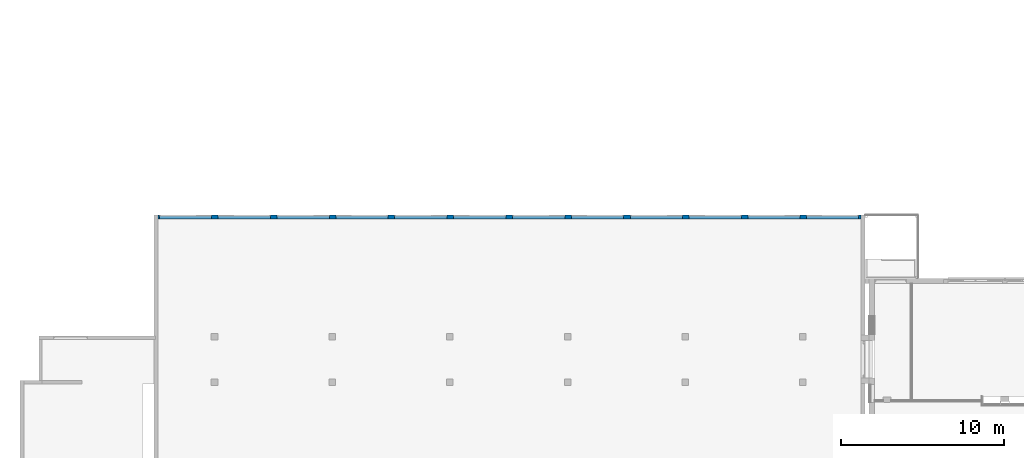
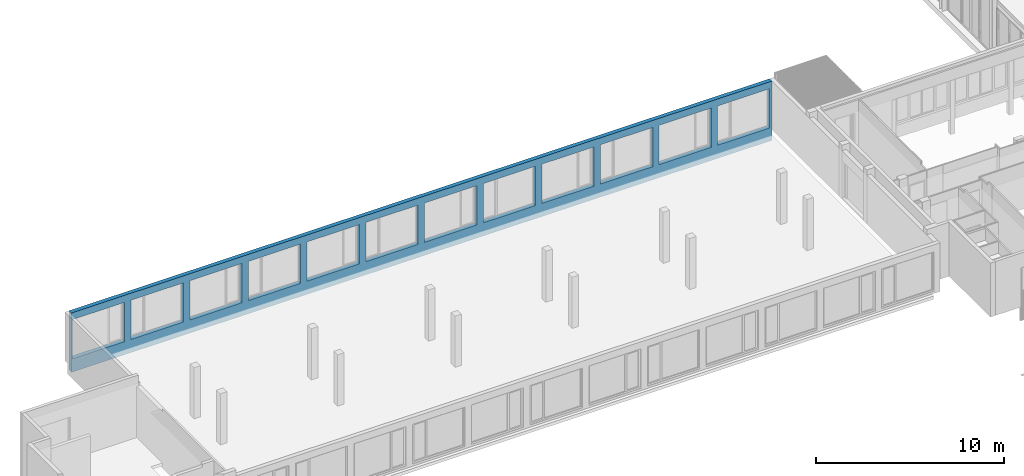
# One storey, part 27 of 99: 1 wall, 12 openings.
"""IFC2X3 building model written with IfcOpenShell, lengths in millimetres."""

from ifc_helpers import new_model, entity, si_unit, converted_unit, derived_unit, money_unit, direction, frame, origin_with_axes, place, context, subcontext, project, spatial, faceted_brep, material, type_object, element, save


model = new_model("IFC2X3")

# Units and contexts
model_context = context("Model", 3, precision=0.01, world=origin_with_axes(), true_north=direction((0.0, 1.0)))
body_context = subcontext(model_context, "Body", "Model", "MODEL_VIEW")
ifc_project = project(units=[si_unit("LENGTHUNIT", "METRE", prefix="MILLI"), si_unit("AREAUNIT", "SQUARE_METRE"), si_unit("VOLUMEUNIT", "CUBIC_METRE"), converted_unit("PLANEANGLEUNIT", "DEGREE", entity("IfcPlaneAngleMeasure", 0.0174532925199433), si_unit("PLANEANGLEUNIT", "RADIAN"), dimensions=[0, 0, 0, 0, 0, 0, 0]), money_unit("EUR"), converted_unit("TIMEUNIT", "Year", entity("IfcTimeMeasure", 31557600.0), si_unit("TIMEUNIT", "SECOND"), dimensions=[0, 0, 1, 0, 0, 0, 0]), si_unit("MASSUNIT", "GRAM", prefix="KILO"), si_unit("THERMODYNAMICTEMPERATUREUNIT", "DEGREE_CELSIUS"), si_unit("LUMINOUSINTENSITYUNIT", "LUMEN"), si_unit("ENERGYUNIT", "JOULE", prefix="MEGA"), derived_unit("THERMALCONDUCTANCEUNIT", [(si_unit("POWERUNIT", "WATT"), 1), (si_unit("LENGTHUNIT", "METRE"), -1), (si_unit("THERMODYNAMICTEMPERATUREUNIT", "KELVIN"), -1)]), derived_unit("SPECIFICHEATCAPACITYUNIT", [(si_unit("ENERGYUNIT", "JOULE"), 1), (si_unit("MASSUNIT", "GRAM", prefix="KILO"), -1), (si_unit("THERMODYNAMICTEMPERATUREUNIT", "KELVIN"), -1)]), derived_unit("MASSDENSITYUNIT", [(si_unit("MASSUNIT", "GRAM", prefix="KILO"), 1), (si_unit("VOLUMEUNIT", "CUBIC_METRE"), -1)])], contexts=[model_context])

# Site, building, storey
site_placement = place(None, origin_with_axes())
site = spatial("IfcSite", under=ifc_project, at=site_placement, Name="Site", CompositionType="ELEMENT")
building_placement = place(site_placement, origin_with_axes())
building = spatial("IfcBuilding", under=site, at=building_placement, Name="Naam gebouw", CompositionType="ELEMENT")
storey_placement = place(building_placement, frame((0.0, 0.0, 7650.0), z_axis=(0.0, 0.0, 1.0), x_axis=(1.0, 0.0, 0.0)))
storey = spatial("IfcBuildingStorey", under=building, at=storey_placement, Name="2e verdieping N", CompositionType="ELEMENT", Elevation=7650.0)

# Wall, openings
ifc_material = material(Name="ALG - CONSTRUCTIEF")
wall_type = type_object("IfcWallType", Name="ALG - CONSTRUCTIEF 250", PredefinedType="NOTDEFINED")
wall_placement = place(storey_placement, frame((-1600.000000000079, 23965.57502437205, -790.0), z_axis=(0.0, 0.0, 1.0), x_axis=(-1.0, 0.0, 0.0)))
wall = element("IfcWall", 1, at=wall_placement, inside=storey, type_object=wall_type, material=ifc_material, Name="_Wand-x", context=body_context, shape_type="Brep", body=[
    faceted_brep([(-2.778510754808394e-08, 0.0, 0.0), (0.0, 0.0, 3850.0), (43000.00000015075, 4.082068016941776e-09, 3850.0), (43000.00000015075, 4.082068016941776e-09, 690.0000000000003), (43000.00000015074, 4.082068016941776e-09, 0.0), (3717.759267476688, 3.517186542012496e-10, 850.0000000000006), (6917.759267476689, 6.572520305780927e-10, 850.0000000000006), (6917.759267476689, 6.572520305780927e-10, 3400.000000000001), (3717.759267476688, 3.517186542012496e-10, 3400.000000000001), (7314.279644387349, 6.927791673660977e-10, 3400.000000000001), (7314.279644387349, 6.927791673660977e-10, 850.0000000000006), (10514.27964438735, 9.983125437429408e-10, 850.0000000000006), (10514.27964438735, 9.983125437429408e-10, 3400.000000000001), (14114.27964438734, 1.339373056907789e-09, 3400.000000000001), (10914.27964438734, 1.037392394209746e-09, 3400.000000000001), (10914.27964438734, 1.037392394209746e-09, 850.0000000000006), (14114.27964438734, 1.339373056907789e-09, 850.0000000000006), (17714.27964438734, 1.680433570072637e-09, 850.0000000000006), (17714.27964438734, 1.680433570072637e-09, 3400.000000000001), (14514.27964438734, 1.374900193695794e-09, 3400.000000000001), (14514.27964438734, 1.374900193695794e-09, 850.0000000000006), (18114.27964438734, 1.715960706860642e-09, 850.0000000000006), (21314.27964438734, 2.021494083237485e-09, 850.0000000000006), (21314.27964438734, 2.021494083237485e-09, 3400.000000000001), (18114.27964438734, 1.715960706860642e-09, 3400.000000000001), (21714.27964438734, 2.064126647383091e-09, 3400.000000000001), (21714.27964438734, 2.064126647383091e-09, 850.0000000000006), (24914.27964438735, 2.366107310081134e-09, 850.0000000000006), (24914.27964438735, 2.366107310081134e-09, 3400.000000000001), (28529.34748623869, 2.707167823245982e-09, 3400.000000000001), (25329.34748623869, 2.401634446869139e-09, 3400.000000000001), (25329.34748623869, 2.401634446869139e-09, 850.0000000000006), (28529.34748623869, 2.707167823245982e-09, 850.0000000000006), (32129.3474862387, 3.04822833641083e-09, 850.0000000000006), (32129.3474862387, 3.05178105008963e-09, 3400.000000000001), (28929.3474862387, 2.746247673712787e-09, 3400.000000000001), (28929.3474862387, 2.746247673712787e-09, 850.0000000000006), (32529.34740271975, 3.087308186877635e-09, 850.0000000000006), (35729.34740271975, 3.389288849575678e-09, 850.0000000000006), (35729.34740271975, 3.389288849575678e-09, 3400.000000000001), (32529.34740271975, 3.087308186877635e-09, 3400.000000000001), (137.7592674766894, 0.0, 3400.000000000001), (137.7592674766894, 0.0, 850.0000000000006), (3337.759267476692, 3.161915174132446e-10, 850.0000000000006), (3337.759267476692, 3.161915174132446e-10, 3400.000000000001), (39329.34740271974, 3.733902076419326e-09, 3400.000000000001), (36129.34740271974, 3.428368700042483e-09, 3400.000000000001), (36129.34740271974, 3.428368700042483e-09, 850.0000000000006), (39329.34740271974, 3.733902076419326e-09, 850.0000000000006), (42929.3473192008, 4.074962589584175e-09, 850.0000000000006), (42929.3473192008, 4.074962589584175e-09, 3400.000000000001), (39729.34731920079, 3.769429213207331e-09, 3400.000000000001), (39729.34731920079, 3.769429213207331e-09, 850.0000000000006), (-2.776134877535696e-08, -250.0, 0.0), (0.0, -250.0, 690.0000000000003), (0.0, -250.0, 3850.0), (43000.00000015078, -249.9999999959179, 3850.0), (43000.00000015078, -249.9999999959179, 690.0000000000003), (43000.00000015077, -249.9999999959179, 0.0), (3717.759267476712, -249.9999999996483, 850.0000000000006), (6917.759267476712, -249.9999999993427, 850.0000000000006), (6917.759267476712, -249.9999999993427, 3400.000000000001), (3717.759267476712, -249.9999999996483, 3400.000000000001), (7314.279644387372, -249.9999999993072, 3400.000000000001), (7314.279644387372, -249.9999999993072, 850.0000000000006), (10514.27964438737, -249.9999999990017, 850.0000000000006), (10514.27964438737, -249.9999999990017, 3400.000000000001), (10914.27964438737, -249.9999999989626, 3400.000000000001), (14114.27964438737, -249.9999999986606, 3400.000000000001), (10914.27964438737, -249.9999999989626, 850.0000000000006), (14114.27964438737, -249.9999999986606, 850.0000000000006), (17714.27964438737, -249.999999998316, 850.0000000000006), (17714.27964438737, -249.999999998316, 3400.000000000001), (14514.27964438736, -249.9999999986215, 3400.000000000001), (14514.27964438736, -249.9999999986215, 850.0000000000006), (18114.27964438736, -249.999999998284, 850.0000000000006), (21314.27964438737, -249.9999999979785, 850.0000000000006), (21314.27964438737, -249.9999999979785, 3400.000000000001), (18114.27964438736, -249.999999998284, 3400.000000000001), (21714.27964438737, -249.9999999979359, 3400.000000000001), (21714.27964438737, -249.9999999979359, 850.0000000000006), (24914.27964438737, -249.9999999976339, 850.0000000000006), (24914.27964438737, -249.9999999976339, 3400.000000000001), (25329.34748623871, -249.9999999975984, 3400.000000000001), (28529.34748623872, -249.9999999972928, 3400.000000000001), (25329.34748623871, -249.9999999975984, 850.0000000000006), (28529.34748623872, -249.9999999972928, 850.0000000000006), (32129.34748623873, -249.9999999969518, 850.0000000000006), (32129.34748623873, -249.9999999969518, 3400.000000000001), (28929.34748623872, -249.9999999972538, 3400.000000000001), (28929.34748623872, -249.9999999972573, 850.0000000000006), (32529.34740271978, -249.9999999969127, 850.0000000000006), (35729.34740271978, -249.9999999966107, 850.0000000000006), (35729.34740271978, -249.9999999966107, 3400.000000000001), (32529.34740271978, -249.9999999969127, 3400.000000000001), (137.7592674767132, -249.9999999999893, 3400.000000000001), (137.7592674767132, -249.9999999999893, 850.0000000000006), (3337.759267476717, -249.9999999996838, 850.0000000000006), (3337.759267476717, -249.9999999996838, 3400.000000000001), (36129.34740271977, -249.9999999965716, 3400.000000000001), (39329.34740271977, -249.9999999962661, 3400.000000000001), (36129.34740271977, -249.9999999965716, 850.0000000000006), (39329.34740271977, -249.9999999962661, 850.0000000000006), (42929.34731920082, -249.999999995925, 850.0000000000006), (42929.34731920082, -249.999999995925, 3400.000000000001), (39729.34731920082, -249.9999999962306, 3400.000000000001), (39729.34731920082, -249.9999999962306, 850.0000000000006)], [[[0, 1, 2, 3, 4], [5, 6, 7, 8], [9, 10, 11, 12], [13, 14, 15, 16], [17, 18, 19, 20], [21, 22, 23, 24], [25, 26, 27, 28], [29, 30, 31, 32], [33, 34, 35, 36], [37, 38, 39, 40], [41, 42, 43, 44], [45, 46, 47, 48], [49, 50, 51, 52]], [[0, 53, 54, 55, 1]], [[55, 56, 2, 1]], [[4, 3, 2, 56, 57, 58]], [[58, 53, 0, 4]], [[5, 59, 60, 6]], [[6, 60, 61, 7]], [[7, 61, 62, 8]], [[8, 62, 59, 5]], [[10, 9, 63, 64]], [[11, 10, 64, 65]], [[12, 11, 65, 66]], [[9, 12, 66, 63]], [[67, 14, 13, 68]], [[69, 15, 14, 67]], [[70, 16, 15, 69]], [[68, 13, 16, 70]], [[71, 72, 18, 17]], [[72, 73, 19, 18]], [[73, 74, 20, 19]], [[74, 71, 17, 20]], [[21, 75, 76, 22]], [[22, 76, 77, 23]], [[23, 77, 78, 24]], [[24, 78, 75, 21]], [[26, 25, 79, 80]], [[27, 26, 80, 81]], [[28, 27, 81, 82]], [[25, 28, 82, 79]], [[83, 30, 29, 84]], [[85, 31, 30, 83]], [[86, 32, 31, 85]], [[84, 29, 32, 86]], [[87, 88, 34, 33]], [[88, 89, 35, 34]], [[89, 90, 36, 35]], [[90, 87, 33, 36]], [[37, 91, 92, 38]], [[38, 92, 93, 39]], [[39, 93, 94, 40]], [[40, 94, 91, 37]], [[42, 41, 95, 96]], [[43, 42, 96, 97]], [[44, 43, 97, 98]], [[41, 44, 98, 95]], [[99, 46, 45, 100]], [[101, 47, 46, 99]], [[102, 48, 47, 101]], [[100, 45, 48, 102]], [[103, 104, 50, 49]], [[104, 105, 51, 50]], [[105, 106, 52, 51]], [[106, 103, 49, 52]], [[58, 57, 56, 55, 54, 53], [61, 60, 59, 62], [63, 66, 65, 64], [69, 67, 68, 70], [71, 74, 73, 72], [77, 76, 75, 78], [79, 82, 81, 80], [85, 83, 84, 86], [87, 90, 89, 88], [93, 92, 91, 94], [95, 98, 97, 96], [101, 99, 100, 102], [103, 106, 105, 104]]]),
])
opening_1_placement = place(wall_placement, frame((5317.759267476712, -5.044853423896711e-10, 850.0000000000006), z_axis=(0.0, 0.0, 1.0), x_axis=(1.0, 0.0, 0.0)))
element("IfcOpeningElement", 2, at=opening_1_placement, cuts=wall, Name="_Merk-x", context=body_context, shape_type="Brep", body=[
    faceted_brep([(1599.999999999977, 1.000000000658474, 2550.000000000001), (1599.999999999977, 1.000000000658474, 0.0), (-1600.000000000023, 1.000000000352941, 0.0), (-1600.000000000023, 1.000000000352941, 2550.000000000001), (1600.0, -251.0000000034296, 2550.000000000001), (1600.0, -251.0000000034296, 0.0), (-1599.999999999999, -251.0000000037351, 0.0), (-1599.999999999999, -251.0000000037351, 2550.000000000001)], [[[0, 1, 2, 3]], [[4, 5, 1, 0]], [[5, 6, 2, 1]], [[6, 7, 3, 2]], [[7, 4, 0, 3]], [[6, 5, 4, 7]]]),
])
opening_2_placement = place(wall_placement, frame((8914.279644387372, -8.455458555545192e-10, 850.0000000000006), z_axis=(0.0, 0.0, 1.0), x_axis=(1.0, 0.0, 0.0)))
element("IfcOpeningElement", 3, at=opening_2_placement, cuts=wall, Name="_Merk-x", context=body_context, shape_type="Brep", body=[
    faceted_brep([(1599.999999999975, 1.000000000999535, 2550.000000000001), (1599.999999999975, 1.000000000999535, 0.0), (-1600.000000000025, 1.000000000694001, 0.0), (-1600.000000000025, 1.000000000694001, 2550.000000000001), (1599.999999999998, -251.0000000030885, 2550.000000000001), (1599.999999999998, -251.0000000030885, 0.0), (-1600.000000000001, -251.0000000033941, 0.0), (-1600.000000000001, -251.0000000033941, 2550.000000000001)], [[[0, 1, 2, 3]], [[4, 5, 1, 0]], [[5, 6, 2, 1]], [[6, 7, 3, 2]], [[7, 4, 0, 3]], [[6, 5, 4, 7]]]),
])
opening_3_placement = place(wall_placement, frame((12514.27964438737, -1.190159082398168e-09, 850.0000000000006), z_axis=(0.0, 0.0, 1.0), x_axis=(1.0, 0.0, 0.0)))
element("IfcOpeningElement", 4, at=opening_3_placement, cuts=wall, Name="_Merk-x", context=body_context, shape_type="Brep", body=[
    faceted_brep([(1599.999999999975, 1.000000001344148, 2550.000000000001), (1599.999999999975, 1.000000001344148, 0.0), (-1600.000000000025, 1.000000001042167, 0.0), (-1600.000000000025, 1.000000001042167, 2550.000000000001), (1599.999999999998, -251.0000000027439, 2550.000000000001), (1599.999999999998, -251.0000000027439, 0.0), (-1600.000000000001, -251.0000000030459, 0.0), (-1600.000000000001, -251.0000000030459, 2550.000000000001)], [[[0, 1, 2, 3]], [[4, 5, 1, 0]], [[5, 6, 2, 1]], [[6, 7, 3, 2]], [[7, 4, 0, 3]], [[6, 5, 4, 7]]]),
])
opening_4_placement = place(wall_placement, frame((19714.27964438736, -1.872280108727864e-09, 850.0000000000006), z_axis=(0.0, 0.0, 1.0), x_axis=(1.0, 0.0, 0.0)))
element("IfcOpeningElement", 5, at=opening_4_placement, cuts=wall, Name="_Merk-x", context=body_context, shape_type="Brep", body=[
    faceted_brep([(1599.999999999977, 1.000000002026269, 2550.000000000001), (1599.999999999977, 1.000000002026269, 0.0), (-1600.000000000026, 1.000000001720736, 0.0), (-1600.000000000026, 1.000000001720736, 2550.000000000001), (1600.000000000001, -251.0000000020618, 2550.000000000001), (1600.000000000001, -251.0000000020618, 0.0), (-1600.000000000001, -251.0000000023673, 0.0), (-1600.000000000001, -251.0000000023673, 2550.000000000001)], [[[0, 1, 2, 3]], [[4, 5, 1, 0]], [[5, 6, 2, 1]], [[6, 7, 3, 2]], [[7, 4, 0, 3]], [[6, 5, 4, 7]]]),
])
opening_5_placement = place(wall_placement, frame((23314.27964438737, -2.216893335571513e-09, 850.0000000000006), z_axis=(0.0, 0.0, 1.0), x_axis=(1.0, 0.0, 0.0)))
element("IfcOpeningElement", 6, at=opening_5_placement, cuts=wall, Name="_Merk-x", context=body_context, shape_type="Brep", body=[
    faceted_brep([(1599.999999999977, 1.000000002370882, 2550.000000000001), (1599.999999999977, 1.000000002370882, 0.0), (-1600.000000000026, 1.000000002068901, 0.0), (-1600.000000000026, 1.000000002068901, 2550.000000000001), (1600.000000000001, -251.0000000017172, 2550.000000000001), (1600.000000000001, -251.0000000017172, 0.0), (-1600.000000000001, -251.0000000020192, 0.0), (-1600.000000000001, -251.0000000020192, 2550.000000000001)], [[[0, 1, 2, 3]], [[4, 5, 1, 0]], [[5, 6, 2, 1]], [[6, 7, 3, 2]], [[7, 4, 0, 3]], [[6, 5, 4, 7]]]),
])
opening_6_placement = place(wall_placement, frame((26929.34748623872, -2.557953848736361e-09, 850.0000000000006), z_axis=(0.0, 0.0, 1.0), x_axis=(1.0, 0.0, 0.0)))
element("IfcOpeningElement", 7, at=opening_6_placement, cuts=wall, Name="_Merk-x", context=body_context, shape_type="Brep", body=[
    faceted_brep([(1599.999999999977, 1.000000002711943, 2550.000000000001), (1599.999999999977, 1.000000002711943, 0.0), (-1600.000000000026, 1.000000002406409, 0.0), (-1600.000000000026, 1.000000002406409, 2550.000000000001), (1600.000000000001, -251.0000000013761, 2550.000000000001), (1600.000000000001, -251.0000000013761, 0.0), (-1600.000000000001, -251.0000000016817, 0.0), (-1600.000000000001, -251.0000000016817, 2550.000000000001)], [[[0, 1, 2, 3]], [[4, 5, 1, 0]], [[5, 6, 2, 1]], [[6, 7, 3, 2]], [[7, 4, 0, 3]], [[6, 5, 4, 7]]]),
])
opening_7_placement = place(wall_placement, frame((34129.34740271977, -3.243627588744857e-09, 850.0000000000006), z_axis=(0.0, 0.0, 1.0), x_axis=(1.0, 0.0, 0.0)))
element("IfcOpeningElement", 8, at=opening_7_placement, cuts=wall, Name="_Merk-x", context=body_context, shape_type="Brep", body=[
    faceted_brep([(1599.99999999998, 1.000000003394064, 2550.000000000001), (1599.99999999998, 1.000000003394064, 0.0), (-1600.000000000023, 1.000000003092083, 0.0), (-1600.000000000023, 1.000000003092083, 2550.000000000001), (1600.000000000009, -251.000000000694, 2550.000000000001), (1600.000000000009, -251.000000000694, 0.0), (-1599.999999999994, -251.000000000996, 0.0), (-1599.999999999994, -251.000000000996, 2550.000000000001)], [[[0, 1, 2, 3]], [[4, 5, 1, 0]], [[5, 6, 2, 1]], [[6, 7, 3, 2]], [[7, 4, 0, 3]], [[6, 5, 4, 7]]]),
])
opening_8_placement = place(wall_placement, frame((16114.27964438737, -1.531219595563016e-09, 850.0000000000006), z_axis=(0.0, 0.0, 1.0), x_axis=(1.0, 0.0, 0.0)))
element("IfcOpeningElement", 9, at=opening_8_placement, cuts=wall, Name="_Merk-x", context=body_context, shape_type="Brep", body=[
    faceted_brep([(1599.999999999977, 1.000000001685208, 2550.000000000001), (1599.999999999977, 1.000000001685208, 0.0), (-1600.000000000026, 1.000000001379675, 0.0), (-1600.000000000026, 1.000000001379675, 2550.000000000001), (1600.000000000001, -251.0000000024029, 2550.000000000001), (1600.000000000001, -251.0000000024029, 0.0), (-1600.000000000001, -251.0000000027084, 0.0), (-1600.000000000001, -251.0000000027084, 2550.000000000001)], [[[0, 1, 2, 3]], [[4, 5, 1, 0]], [[5, 6, 2, 1]], [[6, 7, 3, 2]], [[7, 4, 0, 3]], [[6, 5, 4, 7]]]),
])
opening_9_placement = place(wall_placement, frame((1737.759267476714, -1.63424829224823e-10, 850.0000000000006), z_axis=(0.0, 0.0, 1.0), x_axis=(1.0, 0.0, 0.0)))
element("IfcOpeningElement", 10, at=opening_9_placement, cuts=wall, Name="_Merk-x", context=body_context, shape_type="Brep", body=[
    faceted_brep([(1599.999999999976, 1.000000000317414, 2550.000000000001), (1599.999999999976, 1.000000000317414, 0.0), (-1600.000000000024, 1.00000000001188, 0.0), (-1600.000000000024, 1.00000000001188, 2550.000000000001), (1600.0, -251.0000000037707, 2550.000000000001), (1600.0, -251.0000000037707, 0.0), (-1600.0, -251.0000000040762, 0.0), (-1600.0, -251.0000000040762, 2550.000000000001)], [[[0, 1, 2, 3]], [[4, 5, 1, 0]], [[5, 6, 2, 1]], [[6, 7, 3, 2]], [[7, 4, 0, 3]], [[6, 5, 4, 7]]]),
])
opening_10_placement = place(wall_placement, frame((30529.34748623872, -2.899014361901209e-09, 850.0000000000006), z_axis=(0.0, 0.0, 1.0), x_axis=(1.0, 0.0, 0.0)))
element("IfcOpeningElement", 11, at=opening_10_placement, cuts=wall, Name="_Merk-x", context=body_context, shape_type="Brep", body=[
    faceted_brep([(1599.99999999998, 1.000000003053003, 2550.000000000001), (1599.99999999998, 1.000000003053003, 0.0), (-1600.000000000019, 1.00000000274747, 0.0), (-1600.000000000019, 1.00000000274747, 2550.000000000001), (1600.000000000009, -251.0000000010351, 2550.000000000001), (1600.000000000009, -251.0000000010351, 0.0), (-1599.999999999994, -251.0000000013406, 0.0), (-1599.999999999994, -251.0000000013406, 2550.000000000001)], [[[0, 1, 2, 3]], [[4, 5, 1, 0]], [[5, 6, 2, 1]], [[6, 7, 3, 2]], [[7, 4, 0, 3]], [[6, 5, 4, 7]]]),
])
opening_11_placement = place(wall_placement, frame((37729.34740271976, -3.584688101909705e-09, 850.0000000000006), z_axis=(0.0, 0.0, 1.0), x_axis=(1.0, 0.0, 0.0)))
element("IfcOpeningElement", 12, at=opening_11_placement, cuts=wall, Name="_Merk-x", context=body_context, shape_type="Brep", body=[
    faceted_brep([(1599.99999999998, 1.000000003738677, 2550.000000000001), (1599.99999999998, 1.000000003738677, 0.0), (-1600.000000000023, 1.000000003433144, 0.0), (-1600.000000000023, 1.000000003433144, 2550.000000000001), (1600.000000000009, -251.0000000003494, 2550.000000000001), (1600.000000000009, -251.0000000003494, 0.0), (-1599.999999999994, -251.0000000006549, 0.0), (-1599.999999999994, -251.0000000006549, 2550.000000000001)], [[[0, 1, 2, 3]], [[4, 5, 1, 0]], [[5, 6, 2, 1]], [[6, 7, 3, 2]], [[7, 4, 0, 3]], [[6, 5, 4, 7]]]),
])
opening_12_placement = place(wall_placement, frame((41329.34731920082, -3.925748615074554e-09, 850.0000000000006), z_axis=(0.0, 0.0, 1.0), x_axis=(1.0, 0.0, 0.0)))
element("IfcOpeningElement", 13, at=opening_12_placement, cuts=wall, Name="_Merk-x", context=body_context, shape_type="Brep", body=[
    faceted_brep([(1599.99999999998, 1.000000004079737, 2550.000000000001), (1599.99999999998, 1.000000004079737, 0.0), (-1600.000000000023, 1.000000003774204, 0.0), (-1600.000000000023, 1.000000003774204, 2550.000000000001), (1600.000000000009, -251.0000000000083, 2550.000000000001), (1600.000000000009, -251.0000000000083, 0.0), (-1599.999999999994, -251.0000000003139, 0.0), (-1599.999999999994, -251.0000000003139, 2550.000000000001)], [[[0, 1, 2, 3]], [[4, 5, 1, 0]], [[5, 6, 2, 1]], [[6, 7, 3, 2]], [[7, 4, 0, 3]], [[6, 5, 4, 7]]]),
])

save(model, "model.ifc")
